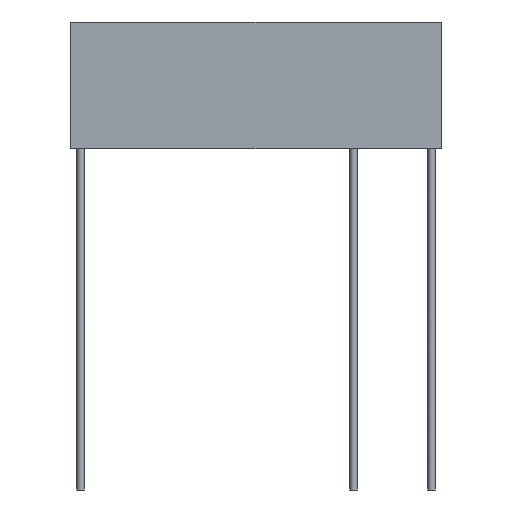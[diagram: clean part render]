
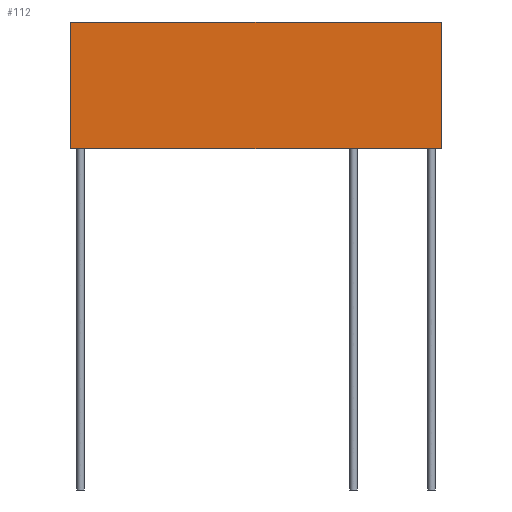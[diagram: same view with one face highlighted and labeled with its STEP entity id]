
A CAD part, front view. The second image highlights one B-rep face of the part: STEP entity #112.
In plain terms, the highlighted planar face has unit normal (0, -1, 0).
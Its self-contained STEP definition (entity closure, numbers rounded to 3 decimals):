
#112=ADVANCED_FACE('',(#214),#216,.T.);
#214=FACE_BOUND('',#215,.T.);
#215=EDGE_LOOP('',(#289,#290,#291,#292));
#216=PLANE('',#217);
#217=AXIS2_PLACEMENT_3D('',#218,#219,#220);
#218=CARTESIAN_POINT('',(-19.,-1.25,0.));
#219=DIRECTION('',(0.,-1.,0.));
#220=DIRECTION('',(1.,0.,0.));
#289=ORIENTED_EDGE('',*,*,#311,.T.);
#290=ORIENTED_EDGE('',*,*,#324,.T.);
#291=ORIENTED_EDGE('',*,*,#325,.F.);
#292=ORIENTED_EDGE('',*,*,#326,.F.);
#311=EDGE_CURVE('',#341,#339,#342,.T.);
#324=EDGE_CURVE('',#339,#362,#364,.T.);
#325=EDGE_CURVE('',#365,#362,#366,.T.);
#326=EDGE_CURVE('',#341,#365,#367,.T.);
#339=VERTEX_POINT('',#396);
#341=VERTEX_POINT('',#400);
#342=LINE('',#401,#402);
#362=VERTEX_POINT('',#450);
#364=LINE('',#454,#455);
#365=VERTEX_POINT('',#457);
#366=LINE('',#458,#459);
#367=LINE('',#461,#462);
#396=CARTESIAN_POINT('',(19.,-1.25,0.));
#400=CARTESIAN_POINT('',(-19.,-1.25,0.));
#401=CARTESIAN_POINT('',(-19.,-1.25,0.));
#402=VECTOR('',#403,1.);
#403=DIRECTION('',(1.,0.,0.));
#450=CARTESIAN_POINT('',(19.,-1.25,13.));
#454=CARTESIAN_POINT('',(19.,-1.25,0.));
#455=VECTOR('',#456,1.);
#456=DIRECTION('',(0.,0.,1.));
#457=CARTESIAN_POINT('',(-19.,-1.25,13.));
#458=CARTESIAN_POINT('',(-19.,-1.25,13.));
#459=VECTOR('',#460,1.);
#460=DIRECTION('',(1.,0.,0.));
#461=CARTESIAN_POINT('',(-19.,-1.25,0.));
#462=VECTOR('',#463,1.);
#463=DIRECTION('',(0.,0.,1.));
